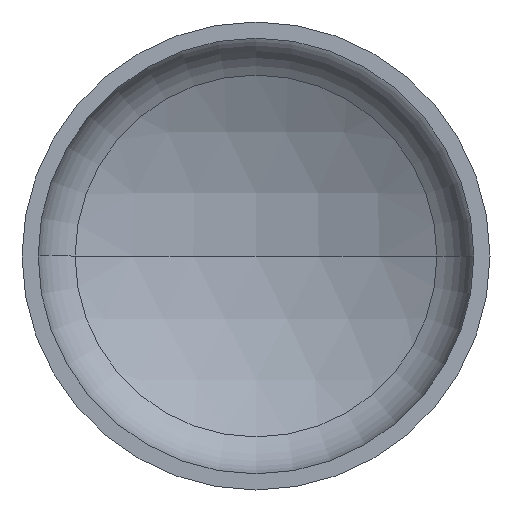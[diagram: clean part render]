
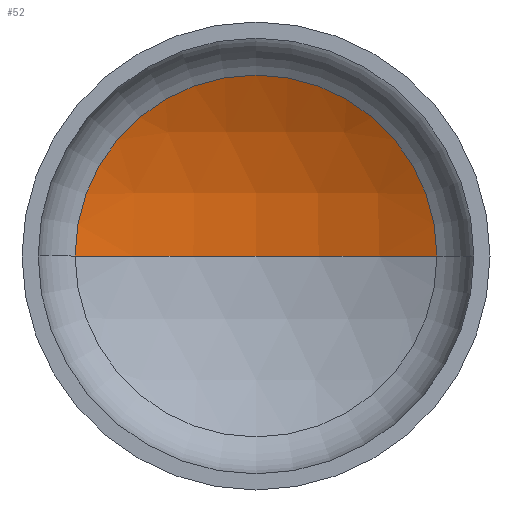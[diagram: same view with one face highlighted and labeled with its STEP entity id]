
A CAD part, front view. The second image highlights one B-rep face of the part: STEP entity #52.
In plain terms, the highlighted spherical face has radius 1440 mm.
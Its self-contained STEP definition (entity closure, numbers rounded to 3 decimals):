
#3 = EDGE_LOOP ( 'NONE', ( #22, #5, #140 ) ) ;
#5 = ORIENTED_EDGE ( 'NONE', *, *, #336, .T. ) ;
#11 = DIRECTION ( 'NONE',  ( 1., 0., 0. ) ) ;
#12 = AXIS2_PLACEMENT_3D ( 'NONE', #397, #258, #11 ) ;
#22 = ORIENTED_EDGE ( 'NONE', *, *, #389, .F. ) ;
#24 = AXIS2_PLACEMENT_3D ( 'NONE', #230, #142, #391 ) ;
#25 = AXIS2_PLACEMENT_3D ( 'NONE', #343, #347, #159 ) ;
#52 = ADVANCED_FACE ( 'NONE', ( #170 ), #60, .F. ) ;
#60 = SPHERICAL_SURFACE ( 'NONE', #71, 1440. ) ;
#71 = AXIS2_PLACEMENT_3D ( 'NONE', #287, #255, #286 ) ;
#73 = CIRCLE ( 'NONE', #24, 1440. ) ;
#89 = VERTEX_POINT ( 'NONE', #337 ) ;
#107 = VERTEX_POINT ( 'NONE', #315 ) ;
#140 = ORIENTED_EDGE ( 'NONE', *, *, #330, .T. ) ;
#142 = DIRECTION ( 'NONE',  ( 0., 0., -1. ) ) ;
#156 = VERTEX_POINT ( 'NONE', #215 ) ;
#159 = DIRECTION ( 'NONE',  ( 1., 0., 0. ) ) ;
#170 = FACE_OUTER_BOUND ( 'NONE', #3, .T. ) ;
#215 = CARTESIAN_POINT ( 'NONE',  ( 0., 540.071, 0. ) ) ;
#230 = CARTESIAN_POINT ( 'NONE',  ( 0., -899.929, 0. ) ) ;
#255 = DIRECTION ( 'NONE',  ( 0., 0., -1. ) ) ;
#258 = DIRECTION ( 'NONE',  ( 0., 0., 1. ) ) ;
#286 = DIRECTION ( 'NONE',  ( -1., 0., 0. ) ) ;
#287 = CARTESIAN_POINT ( 'NONE',  ( 0., -899.929, 0. ) ) ;
#315 = CARTESIAN_POINT ( 'NONE',  ( -695.897, 360.756, 0. ) ) ;
#330 = EDGE_CURVE ( 'NONE', #89, #107, #383, .T. ) ;
#336 = EDGE_CURVE ( 'NONE', #156, #89, #73, .T. ) ;
#337 = CARTESIAN_POINT ( 'NONE',  ( 695.897, 360.756, 0. ) ) ;
#343 = CARTESIAN_POINT ( 'NONE',  ( 0., 360.756, 0. ) ) ;
#347 = DIRECTION ( 'NONE',  ( 0., -1., 0. ) ) ;
#365 = CIRCLE ( 'NONE', #12, 1440. ) ;
#383 = CIRCLE ( 'NONE', #25, 695.897 ) ;
#389 = EDGE_CURVE ( 'NONE', #156, #107, #365, .T. ) ;
#391 = DIRECTION ( 'NONE',  ( -1., 0., 0. ) ) ;
#397 = CARTESIAN_POINT ( 'NONE',  ( 0., -899.929, 0. ) ) ;
